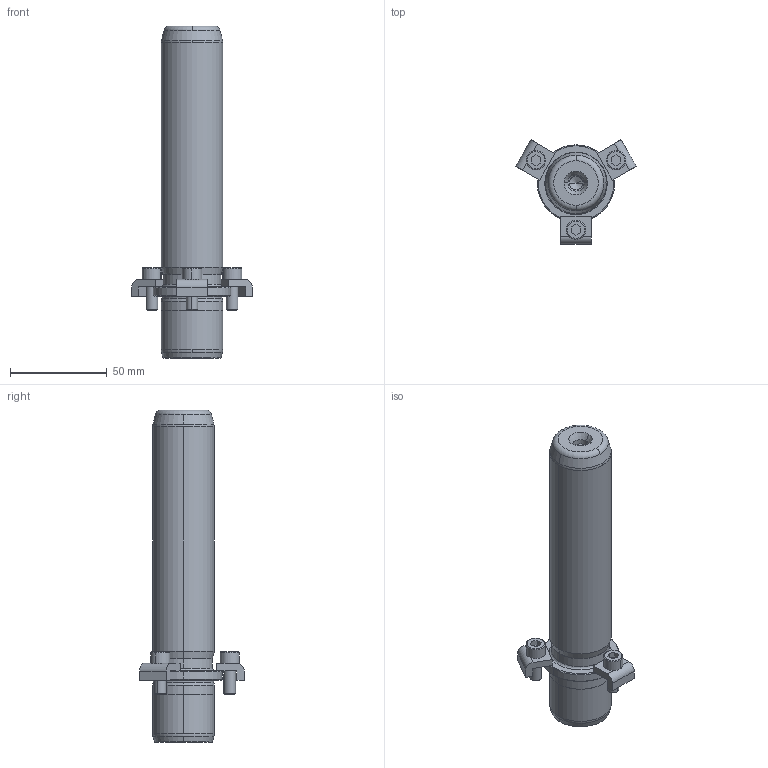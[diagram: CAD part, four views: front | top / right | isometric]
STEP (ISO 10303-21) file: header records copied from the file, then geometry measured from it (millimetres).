
FILE_DESCRIPTION((''),'2;1');
FILE_NAME('P21_032_140.stp','2008-12-23T10:33:36',(''),(''),'Mechanical Desktop 2009','Mechanical Desktop 2009',', , ');
FILE_SCHEMA(('CONFIG_CONTROL_DESIGN'));
Length unit declared in the file: millimetre
Products named in the file (2): Product; blmdl1
Assembly tree (1 placements, depth 2):
  Product
    blmdl1
Bounding box: 62.51 x 54.13 x 172 mm (x, y, z)
Volume: 141721.4 mm3; surface area: 25176.7 mm2
Topology: 7 solids, 7 shells, 163 faces, 399 edges, 257 vertices
Faces by surface type: plane 59, cylinder 44, cone 32, torus 14, bspline 14
Entity records: 5517 total; most frequent: CARTESIAN_POINT 1433, DIRECTION 908, ORIENTED_EDGE 790, EDGE_CURVE 395, AXIS2_PLACEMENT_3D 362, VERTEX_POINT 257, CIRCLE 211, VECTOR 184
